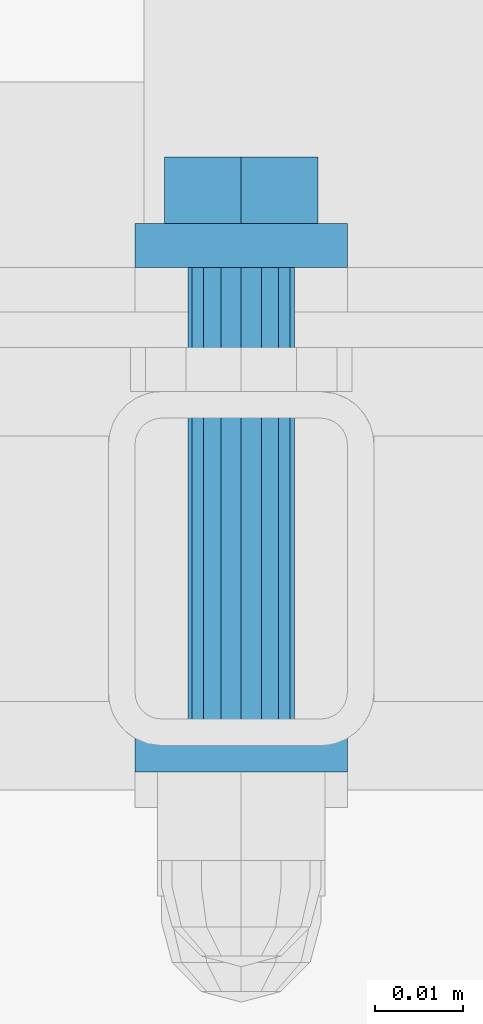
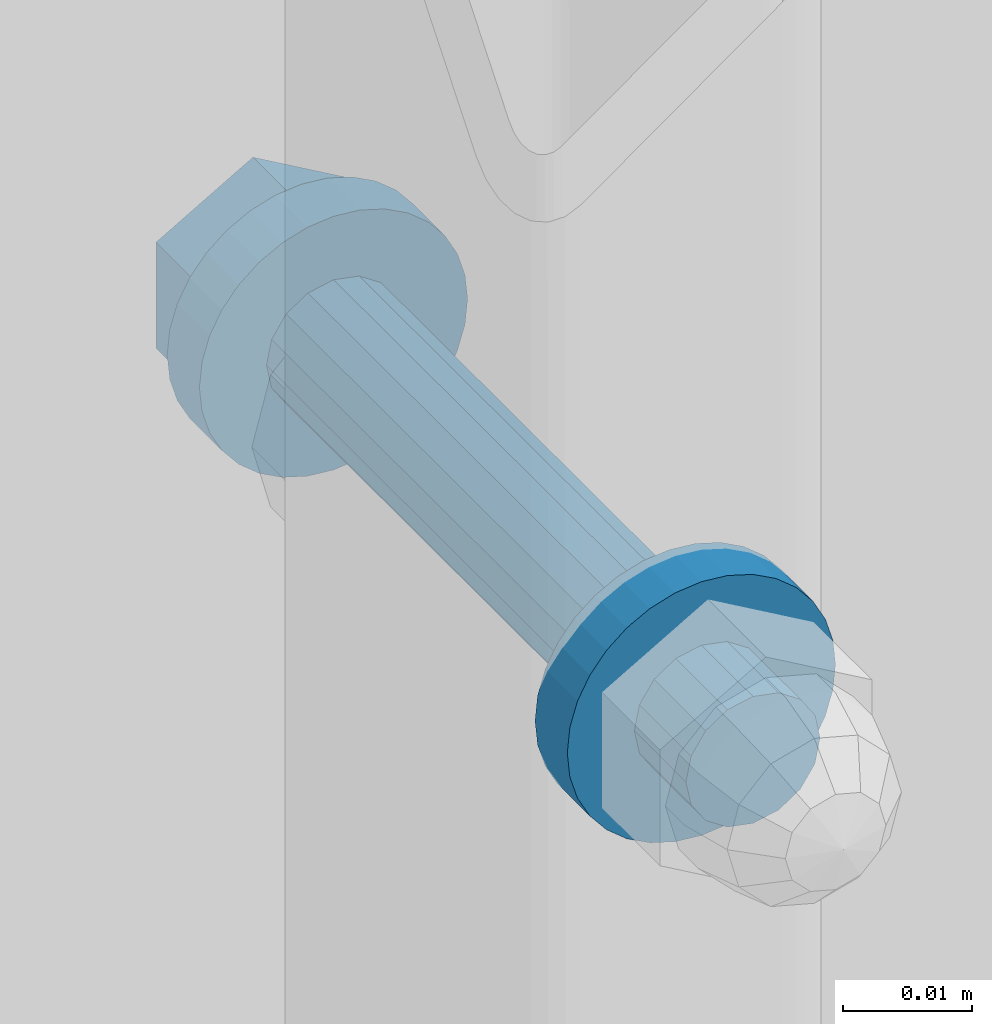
# One storey, part 72 of 116: 1 mechanical fastener.
"""IFC2X3 building model written with IfcOpenShell, lengths in millimetres."""

from ifc_helpers import new_model, entity, si_unit, converted_unit, origin_with_axes, place, context, project, spatial, faceted_brep, element, save


model = new_model("IFC2X3")

# Units and contexts
model_context = context("Model", 3, precision=1e-09, world=origin_with_axes())
ifc_project = project(units=[si_unit("LENGTHUNIT", "METRE", prefix="MILLI"), si_unit("AREAUNIT", "SQUARE_METRE"), si_unit("VOLUMEUNIT", "CUBIC_METRE"), converted_unit("PLANEANGLEUNIT", "DEGREE", entity("IfcPlaneAngleMeasure", 0.01745329), si_unit("PLANEANGLEUNIT", "RADIAN"), dimensions=[0, 0, 0, 0, 0, 0, 0])], contexts=[model_context])

# Site, building, storey
site_placement = place(None, origin_with_axes())
site = spatial("IfcSite", under=ifc_project, at=site_placement, Name="Site", CompositionType="ELEMENT")
building_placement = place(site_placement, origin_with_axes())
building = spatial("IfcBuilding", under=site, at=building_placement, Name="Struktur 1", CompositionType="ELEMENT")
storey_placement = place(building_placement, origin_with_axes())
storey = spatial("IfcBuildingStorey", under=building, at=storey_placement, Name="Default Storey", CompositionType="ELEMENT", Elevation=0.0)

# Mechanical fastener
mechanical_fastener_placement = place(None, origin_with_axes())
element("IfcMechanicalFastener", 1, at=mechanical_fastener_placement, inside=storey, ObjectType="-", NominalDiameter=12.0, NominalLength=70.0, context=model_context, shape_type="Brep", body=[
    faceted_brep([(59725.049134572, 9081.358883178, -843.0), (59725.049134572, 9083.858883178, -843.0), (59725.279711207, 9083.858883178, -845.341083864), (59725.279711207, 9081.358883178, -845.341083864), (59725.962580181, 9083.858883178, -847.592201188), (59725.962580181, 9081.358883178, -847.592201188), (59727.071499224, 9083.858883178, -849.666842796), (59727.071499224, 9081.358883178, -849.666842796), (59728.563853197, 9083.858883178, -851.485281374), (59728.563853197, 9081.358883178, -851.485281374), (59730.382291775, 9083.858883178, -852.977635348), (59730.382291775, 9081.358883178, -852.977635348), (59732.456933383, 9083.858883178, -854.08655439), (59732.456933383, 9081.358883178, -854.08655439), (59734.708050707, 9083.858883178, -854.769423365), (59734.708050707, 9081.358883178, -854.769423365), (59737.049134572, 9083.858883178, -855.0), (59737.049134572, 9081.358883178, -855.0), (59739.390218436, 9083.858883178, -854.769423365), (59739.390218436, 9081.358883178, -854.769423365), (59741.64133576, 9083.858883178, -854.08655439), (59741.64133576, 9081.358883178, -854.08655439), (59743.715977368, 9083.858883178, -852.977635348), (59743.715977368, 9081.358883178, -852.977635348), (59745.534415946, 9083.858883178, -851.485281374), (59745.534415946, 9081.358883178, -851.485281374), (59747.026769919, 9083.858883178, -849.666842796), (59747.026769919, 9081.358883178, -849.666842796), (59748.135688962, 9083.858883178, -847.592201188), (59748.135688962, 9081.358883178, -847.592201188), (59748.818557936, 9083.858883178, -845.341083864), (59748.818557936, 9081.358883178, -845.341083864), (59749.049134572, 9083.858883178, -843.0), (59749.049134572, 9081.358883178, -843.0), (59748.818557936, 9083.858883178, -840.658916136), (59748.818557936, 9081.358883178, -840.658916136), (59748.135688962, 9083.858883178, -838.407798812), (59748.135688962, 9081.358883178, -838.407798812), (59747.026769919, 9083.858883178, -836.333157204), (59747.026769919, 9081.358883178, -836.333157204), (59745.534415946, 9083.858883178, -834.514718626), (59745.534415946, 9081.358883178, -834.514718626), (59743.715977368, 9083.858883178, -833.022364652), (59743.715977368, 9081.358883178, -833.022364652), (59741.64133576, 9083.858883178, -831.91344561), (59741.64133576, 9081.358883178, -831.91344561), (59739.390218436, 9083.858883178, -831.230576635), (59739.390218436, 9081.358883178, -831.230576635), (59737.049134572, 9083.858883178, -831.0), (59737.049134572, 9081.358883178, -831.0), (59734.708050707, 9083.858883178, -831.230576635), (59734.708050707, 9081.358883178, -831.230576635), (59732.456933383, 9083.858883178, -831.91344561), (59732.456933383, 9081.358883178, -831.91344561), (59730.382291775, 9083.858883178, -833.022364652), (59730.382291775, 9081.358883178, -833.022364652), (59728.563853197, 9083.858883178, -834.514718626), (59728.563853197, 9081.358883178, -834.514718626), (59727.071499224, 9083.858883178, -836.333157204), (59727.071499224, 9081.358883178, -836.333157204), (59725.962580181, 9083.858883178, -838.407798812), (59725.962580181, 9081.358883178, -838.407798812), (59725.279711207, 9083.858883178, -840.658916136), (59725.279711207, 9081.358883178, -840.658916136)], [[[0, 1, 2, 3]], [[3, 2, 4, 5]], [[5, 4, 6, 7]], [[7, 6, 8, 9]], [[9, 8, 10, 11]], [[11, 10, 12, 13]], [[13, 12, 14, 15]], [[15, 14, 16, 17]], [[17, 16, 18, 19]], [[19, 18, 20, 21]], [[21, 20, 22, 23]], [[23, 22, 24, 25]], [[25, 24, 26, 27]], [[27, 26, 28, 29]], [[29, 28, 30, 31]], [[31, 30, 32, 33]], [[33, 32, 34, 35]], [[35, 34, 36, 37]], [[37, 36, 38, 39]], [[39, 38, 40, 41]], [[41, 40, 42, 43]], [[43, 42, 44, 45]], [[45, 44, 46, 47]], [[47, 46, 48, 49]], [[49, 48, 50, 51]], [[51, 50, 52, 53]], [[53, 52, 54, 55]], [[55, 54, 56, 57]], [[57, 56, 58, 59]], [[59, 58, 60, 61]], [[61, 60, 62, 63]], [[63, 62, 1, 0]], [[2, 1, 62, 60, 58, 56, 54, 52, 50, 48, 46, 44, 42, 40, 38, 36, 34, 32, 30, 28, 26, 24, 22, 20, 18, 16, 14, 12, 10, 8, 6, 4]], [[63, 0, 3, 5, 7, 9, 11, 13, 15, 17, 19, 21, 23, 25, 27, 29, 31, 33, 35, 37, 39, 41, 43, 45, 47, 49, 51, 53, 55, 57, 59, 61]]]),
    faceted_brep([(59725.049134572, 9083.858883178, -843.0), (59725.049134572, 9086.358883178, -843.0), (59725.279711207, 9086.358883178, -845.341083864), (59725.279711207, 9083.858883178, -845.341083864), (59725.962580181, 9086.358883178, -847.592201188), (59725.962580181, 9083.858883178, -847.592201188), (59727.071499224, 9086.358883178, -849.666842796), (59727.071499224, 9083.858883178, -849.666842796), (59728.563853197, 9086.358883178, -851.485281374), (59728.563853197, 9083.858883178, -851.485281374), (59730.382291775, 9086.358883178, -852.977635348), (59730.382291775, 9083.858883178, -852.977635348), (59732.456933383, 9086.358883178, -854.08655439), (59732.456933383, 9083.858883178, -854.08655439), (59734.708050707, 9086.358883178, -854.769423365), (59734.708050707, 9083.858883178, -854.769423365), (59737.049134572, 9086.358883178, -855.0), (59737.049134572, 9083.858883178, -855.0), (59739.390218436, 9086.358883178, -854.769423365), (59739.390218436, 9083.858883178, -854.769423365), (59741.64133576, 9086.358883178, -854.08655439), (59741.64133576, 9083.858883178, -854.08655439), (59743.715977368, 9086.358883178, -852.977635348), (59743.715977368, 9083.858883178, -852.977635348), (59745.534415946, 9086.358883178, -851.485281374), (59745.534415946, 9083.858883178, -851.485281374), (59747.026769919, 9086.358883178, -849.666842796), (59747.026769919, 9083.858883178, -849.666842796), (59748.135688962, 9086.358883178, -847.592201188), (59748.135688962, 9083.858883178, -847.592201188), (59748.818557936, 9086.358883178, -845.341083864), (59748.818557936, 9083.858883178, -845.341083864), (59749.049134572, 9086.358883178, -843.0), (59749.049134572, 9083.858883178, -843.0), (59748.818557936, 9086.358883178, -840.658916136), (59748.818557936, 9083.858883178, -840.658916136), (59748.135688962, 9086.358883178, -838.407798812), (59748.135688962, 9083.858883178, -838.407798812), (59747.026769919, 9086.358883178, -836.333157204), (59747.026769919, 9083.858883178, -836.333157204), (59745.534415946, 9086.358883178, -834.514718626), (59745.534415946, 9083.858883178, -834.514718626), (59743.715977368, 9086.358883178, -833.022364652), (59743.715977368, 9083.858883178, -833.022364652), (59741.64133576, 9086.358883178, -831.91344561), (59741.64133576, 9083.858883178, -831.91344561), (59739.390218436, 9086.358883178, -831.230576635), (59739.390218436, 9083.858883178, -831.230576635), (59737.049134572, 9086.358883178, -831.0), (59737.049134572, 9083.858883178, -831.0), (59734.708050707, 9086.358883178, -831.230576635), (59734.708050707, 9083.858883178, -831.230576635), (59732.456933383, 9086.358883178, -831.91344561), (59732.456933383, 9083.858883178, -831.91344561), (59730.382291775, 9086.358883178, -833.022364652), (59730.382291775, 9083.858883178, -833.022364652), (59728.563853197, 9086.358883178, -834.514718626), (59728.563853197, 9083.858883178, -834.514718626), (59727.071499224, 9086.358883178, -836.333157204), (59727.071499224, 9083.858883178, -836.333157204), (59725.962580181, 9086.358883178, -838.407798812), (59725.962580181, 9083.858883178, -838.407798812), (59725.279711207, 9086.358883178, -840.658916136), (59725.279711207, 9083.858883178, -840.658916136)], [[[0, 1, 2, 3]], [[3, 2, 4, 5]], [[5, 4, 6, 7]], [[7, 6, 8, 9]], [[9, 8, 10, 11]], [[11, 10, 12, 13]], [[13, 12, 14, 15]], [[15, 14, 16, 17]], [[17, 16, 18, 19]], [[19, 18, 20, 21]], [[21, 20, 22, 23]], [[23, 22, 24, 25]], [[25, 24, 26, 27]], [[27, 26, 28, 29]], [[29, 28, 30, 31]], [[31, 30, 32, 33]], [[33, 32, 34, 35]], [[35, 34, 36, 37]], [[37, 36, 38, 39]], [[39, 38, 40, 41]], [[41, 40, 42, 43]], [[43, 42, 44, 45]], [[45, 44, 46, 47]], [[47, 46, 48, 49]], [[49, 48, 50, 51]], [[51, 50, 52, 53]], [[53, 52, 54, 55]], [[55, 54, 56, 57]], [[57, 56, 58, 59]], [[59, 58, 60, 61]], [[61, 60, 62, 63]], [[63, 62, 1, 0]], [[2, 1, 62, 60, 58, 56, 54, 52, 50, 48, 46, 44, 42, 40, 38, 36, 34, 32, 30, 28, 26, 24, 22, 20, 18, 16, 14, 12, 10, 8, 6, 4]], [[63, 0, 3, 5, 7, 9, 11, 13, 15, 17, 19, 21, 23, 25, 27, 29, 31, 33, 35, 37, 39, 41, 43, 45, 47, 49, 51, 53, 55, 57, 59, 61]]]),
    faceted_brep([(59745.722378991, 9093.858883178, -848.0075), (59745.722378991, 9086.358883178, -848.0075), (59737.049134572, 9086.358883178, -853.015), (59737.049134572, 9093.858883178, -853.015), (59728.375890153, 9086.358883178, -848.0075), (59728.375890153, 9093.858883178, -848.0075), (59728.375890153, 9086.358883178, -837.9925), (59728.375890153, 9093.858883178, -837.9925), (59737.049134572, 9086.358883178, -832.985), (59737.049134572, 9093.858883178, -832.985), (59745.722378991, 9086.358883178, -837.9925), (59745.722378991, 9093.858883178, -837.9925)], [[[0, 1, 2, 3]], [[3, 2, 4, 5]], [[5, 4, 6, 7]], [[7, 6, 8, 9]], [[9, 8, 10, 11]], [[11, 10, 1, 0]], [[3, 5, 7, 9, 11, 0]], [[2, 1, 10, 8, 6, 4]]]),
    faceted_brep([(59731.049134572, 9029.359883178, -843.0), (59731.049134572, 9081.358883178, -843.0), (59731.505857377, 9081.358883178, -845.296100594), (59731.505857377, 9029.359883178, -845.296100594), (59732.806493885, 9081.358883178, -847.242640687), (59732.806493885, 9029.359883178, -847.242640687), (59734.753033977, 9081.358883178, -848.543277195), (59734.753033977, 9029.359883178, -848.543277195), (59737.049134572, 9081.358883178, -849.0), (59737.049134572, 9029.359883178, -849.0), (59739.345235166, 9081.358883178, -848.543277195), (59739.345235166, 9029.359883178, -848.543277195), (59741.291775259, 9081.358883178, -847.242640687), (59741.291775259, 9029.359883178, -847.242640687), (59742.592411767, 9081.358883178, -845.296100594), (59742.592411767, 9029.359883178, -845.296100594), (59743.049134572, 9081.358883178, -843.0), (59743.049134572, 9029.359883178, -843.0), (59742.592411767, 9081.358883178, -840.703899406), (59742.592411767, 9029.359883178, -840.703899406), (59741.291775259, 9081.358883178, -838.757359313), (59741.291775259, 9029.359883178, -838.757359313), (59739.345235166, 9081.358883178, -837.456722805), (59739.345235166, 9029.359883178, -837.456722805), (59737.049134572, 9081.358883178, -837.0), (59737.049134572, 9029.359883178, -837.0), (59734.753033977, 9081.358883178, -837.456722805), (59734.753033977, 9029.359883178, -837.456722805), (59732.806493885, 9081.358883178, -838.757359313), (59732.806493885, 9029.359883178, -838.757359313), (59731.505857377, 9081.358883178, -840.703899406), (59731.505857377, 9029.359883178, -840.703899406)], [[[0, 1, 2, 3]], [[3, 2, 4, 5]], [[5, 4, 6, 7]], [[7, 6, 8, 9]], [[9, 8, 10, 11]], [[11, 10, 12, 13]], [[13, 12, 14, 15]], [[15, 14, 16, 17]], [[17, 16, 18, 19]], [[19, 18, 20, 21]], [[21, 20, 22, 23]], [[23, 22, 24, 25]], [[25, 24, 26, 27]], [[27, 26, 28, 29]], [[29, 28, 30, 31]], [[31, 30, 1, 0]], [[2, 1, 30, 28, 26, 24, 22, 20, 18, 16, 14, 12, 10, 8, 6, 4]], [[31, 0, 3, 5, 7, 9, 11, 13, 15, 17, 19, 21, 23, 25, 27, 29]]]),
    faceted_brep([(59725.049134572, 9026.859883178, -843.0), (59725.049134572, 9029.359883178, -843.0), (59725.279711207, 9029.359883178, -845.341083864), (59725.279711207, 9026.859883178, -845.341083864), (59725.962580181, 9029.359883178, -847.592201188), (59725.962580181, 9026.859883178, -847.592201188), (59727.071499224, 9029.359883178, -849.666842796), (59727.071499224, 9026.859883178, -849.666842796), (59728.563853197, 9029.359883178, -851.485281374), (59728.563853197, 9026.859883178, -851.485281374), (59730.382291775, 9029.359883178, -852.977635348), (59730.382291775, 9026.859883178, -852.977635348), (59732.456933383, 9029.359883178, -854.08655439), (59732.456933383, 9026.859883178, -854.08655439), (59734.708050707, 9029.359883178, -854.769423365), (59734.708050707, 9026.859883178, -854.769423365), (59737.049134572, 9029.359883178, -855.0), (59737.049134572, 9026.859883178, -855.0), (59739.390218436, 9029.359883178, -854.769423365), (59739.390218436, 9026.859883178, -854.769423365), (59741.64133576, 9029.359883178, -854.08655439), (59741.64133576, 9026.859883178, -854.08655439), (59743.715977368, 9029.359883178, -852.977635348), (59743.715977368, 9026.859883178, -852.977635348), (59745.534415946, 9029.359883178, -851.485281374), (59745.534415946, 9026.859883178, -851.485281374), (59747.026769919, 9029.359883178, -849.666842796), (59747.026769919, 9026.859883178, -849.666842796), (59748.135688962, 9029.359883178, -847.592201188), (59748.135688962, 9026.859883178, -847.592201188), (59748.818557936, 9029.359883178, -845.341083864), (59748.818557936, 9026.859883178, -845.341083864), (59749.049134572, 9029.359883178, -843.0), (59749.049134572, 9026.859883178, -843.0), (59748.818557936, 9029.359883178, -840.658916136), (59748.818557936, 9026.859883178, -840.658916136), (59748.135688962, 9029.359883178, -838.407798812), (59748.135688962, 9026.859883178, -838.407798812), (59747.026769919, 9029.359883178, -836.333157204), (59747.026769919, 9026.859883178, -836.333157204), (59745.534415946, 9029.359883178, -834.514718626), (59745.534415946, 9026.859883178, -834.514718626), (59743.715977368, 9029.359883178, -833.022364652), (59743.715977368, 9026.859883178, -833.022364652), (59741.64133576, 9029.359883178, -831.91344561), (59741.64133576, 9026.859883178, -831.91344561), (59739.390218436, 9029.359883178, -831.230576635), (59739.390218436, 9026.859883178, -831.230576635), (59737.049134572, 9029.359883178, -831.0), (59737.049134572, 9026.859883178, -831.0), (59734.708050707, 9029.359883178, -831.230576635), (59734.708050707, 9026.859883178, -831.230576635), (59732.456933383, 9029.359883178, -831.91344561), (59732.456933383, 9026.859883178, -831.91344561), (59730.382291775, 9029.359883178, -833.022364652), (59730.382291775, 9026.859883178, -833.022364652), (59728.563853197, 9029.359883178, -834.514718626), (59728.563853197, 9026.859883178, -834.514718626), (59727.071499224, 9029.359883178, -836.333157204), (59727.071499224, 9026.859883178, -836.333157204), (59725.962580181, 9029.359883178, -838.407798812), (59725.962580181, 9026.859883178, -838.407798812), (59725.279711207, 9029.359883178, -840.658916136), (59725.279711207, 9026.859883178, -840.658916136)], [[[0, 1, 2, 3]], [[3, 2, 4, 5]], [[5, 4, 6, 7]], [[7, 6, 8, 9]], [[9, 8, 10, 11]], [[11, 10, 12, 13]], [[13, 12, 14, 15]], [[15, 14, 16, 17]], [[17, 16, 18, 19]], [[19, 18, 20, 21]], [[21, 20, 22, 23]], [[23, 22, 24, 25]], [[25, 24, 26, 27]], [[27, 26, 28, 29]], [[29, 28, 30, 31]], [[31, 30, 32, 33]], [[33, 32, 34, 35]], [[35, 34, 36, 37]], [[37, 36, 38, 39]], [[39, 38, 40, 41]], [[41, 40, 42, 43]], [[43, 42, 44, 45]], [[45, 44, 46, 47]], [[47, 46, 48, 49]], [[49, 48, 50, 51]], [[51, 50, 52, 53]], [[53, 52, 54, 55]], [[55, 54, 56, 57]], [[57, 56, 58, 59]], [[59, 58, 60, 61]], [[61, 60, 62, 63]], [[63, 62, 1, 0]], [[2, 1, 62, 60, 58, 56, 54, 52, 50, 48, 46, 44, 42, 40, 38, 36, 34, 32, 30, 28, 26, 24, 22, 20, 18, 16, 14, 12, 10, 8, 6, 4]], [[63, 0, 3, 5, 7, 9, 11, 13, 15, 17, 19, 21, 23, 25, 27, 29, 31, 33, 35, 37, 39, 41, 43, 45, 47, 49, 51, 53, 55, 57, 59, 61]]]),
    faceted_brep([(59725.049134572, 9024.359883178, -843.0), (59725.049134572, 9026.859883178, -843.0), (59725.279711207, 9026.859883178, -845.341083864), (59725.279711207, 9024.359883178, -845.341083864), (59725.962580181, 9026.859883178, -847.592201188), (59725.962580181, 9024.359883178, -847.592201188), (59727.071499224, 9026.859883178, -849.666842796), (59727.071499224, 9024.359883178, -849.666842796), (59728.563853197, 9026.859883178, -851.485281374), (59728.563853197, 9024.359883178, -851.485281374), (59730.382291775, 9026.859883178, -852.977635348), (59730.382291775, 9024.359883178, -852.977635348), (59732.456933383, 9026.859883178, -854.08655439), (59732.456933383, 9024.359883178, -854.08655439), (59734.708050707, 9026.859883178, -854.769423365), (59734.708050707, 9024.359883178, -854.769423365), (59737.049134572, 9026.859883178, -855.0), (59737.049134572, 9024.359883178, -855.0), (59739.390218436, 9026.859883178, -854.769423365), (59739.390218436, 9024.359883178, -854.769423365), (59741.64133576, 9026.859883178, -854.08655439), (59741.64133576, 9024.359883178, -854.08655439), (59743.715977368, 9026.859883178, -852.977635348), (59743.715977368, 9024.359883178, -852.977635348), (59745.534415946, 9026.859883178, -851.485281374), (59745.534415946, 9024.359883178, -851.485281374), (59747.026769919, 9026.859883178, -849.666842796), (59747.026769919, 9024.359883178, -849.666842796), (59748.135688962, 9026.859883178, -847.592201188), (59748.135688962, 9024.359883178, -847.592201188), (59748.818557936, 9026.859883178, -845.341083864), (59748.818557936, 9024.359883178, -845.341083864), (59749.049134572, 9026.859883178, -843.0), (59749.049134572, 9024.359883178, -843.0), (59748.818557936, 9026.859883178, -840.658916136), (59748.818557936, 9024.359883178, -840.658916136), (59748.135688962, 9026.859883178, -838.407798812), (59748.135688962, 9024.359883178, -838.407798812), (59747.026769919, 9026.859883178, -836.333157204), (59747.026769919, 9024.359883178, -836.333157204), (59745.534415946, 9026.859883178, -834.514718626), (59745.534415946, 9024.359883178, -834.514718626), (59743.715977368, 9026.859883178, -833.022364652), (59743.715977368, 9024.359883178, -833.022364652), (59741.64133576, 9026.859883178, -831.91344561), (59741.64133576, 9024.359883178, -831.91344561), (59739.390218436, 9026.859883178, -831.230576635), (59739.390218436, 9024.359883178, -831.230576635), (59737.049134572, 9026.859883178, -831.0), (59737.049134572, 9024.359883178, -831.0), (59734.708050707, 9026.859883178, -831.230576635), (59734.708050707, 9024.359883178, -831.230576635), (59732.456933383, 9026.859883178, -831.91344561), (59732.456933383, 9024.359883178, -831.91344561), (59730.382291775, 9026.859883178, -833.022364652), (59730.382291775, 9024.359883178, -833.022364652), (59728.563853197, 9026.859883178, -834.514718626), (59728.563853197, 9024.359883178, -834.514718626), (59727.071499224, 9026.859883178, -836.333157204), (59727.071499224, 9024.359883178, -836.333157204), (59725.962580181, 9026.859883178, -838.407798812), (59725.962580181, 9024.359883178, -838.407798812), (59725.279711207, 9026.859883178, -840.658916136), (59725.279711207, 9024.359883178, -840.658916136)], [[[0, 1, 2, 3]], [[3, 2, 4, 5]], [[5, 4, 6, 7]], [[7, 6, 8, 9]], [[9, 8, 10, 11]], [[11, 10, 12, 13]], [[13, 12, 14, 15]], [[15, 14, 16, 17]], [[17, 16, 18, 19]], [[19, 18, 20, 21]], [[21, 20, 22, 23]], [[23, 22, 24, 25]], [[25, 24, 26, 27]], [[27, 26, 28, 29]], [[29, 28, 30, 31]], [[31, 30, 32, 33]], [[33, 32, 34, 35]], [[35, 34, 36, 37]], [[37, 36, 38, 39]], [[39, 38, 40, 41]], [[41, 40, 42, 43]], [[43, 42, 44, 45]], [[45, 44, 46, 47]], [[47, 46, 48, 49]], [[49, 48, 50, 51]], [[51, 50, 52, 53]], [[53, 52, 54, 55]], [[55, 54, 56, 57]], [[57, 56, 58, 59]], [[59, 58, 60, 61]], [[61, 60, 62, 63]], [[63, 62, 1, 0]], [[2, 1, 62, 60, 58, 56, 54, 52, 50, 48, 46, 44, 42, 40, 38, 36, 34, 32, 30, 28, 26, 24, 22, 20, 18, 16, 14, 12, 10, 8, 6, 4]], [[63, 0, 3, 5, 7, 9, 11, 13, 15, 17, 19, 21, 23, 25, 27, 29, 31, 33, 35, 37, 39, 41, 43, 45, 47, 49, 51, 53, 55, 57, 59, 61]]]),
    faceted_brep([(59731.049134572, 9016.358883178, -843.0), (59731.049134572, 9024.359883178, -843.0), (59731.505857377, 9024.359883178, -845.296100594), (59731.505857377, 9016.358883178, -845.296100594), (59732.806493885, 9024.359883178, -847.242640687), (59732.806493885, 9016.358883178, -847.242640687), (59734.753033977, 9024.359883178, -848.543277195), (59734.753033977, 9016.358883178, -848.543277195), (59737.049134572, 9024.359883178, -849.0), (59737.049134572, 9016.358883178, -849.0), (59739.345235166, 9024.359883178, -848.543277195), (59739.345235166, 9016.358883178, -848.543277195), (59741.291775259, 9024.359883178, -847.242640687), (59741.291775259, 9016.358883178, -847.242640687), (59742.592411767, 9024.359883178, -845.296100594), (59742.592411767, 9016.358883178, -845.296100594), (59743.049134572, 9024.359883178, -843.0), (59743.049134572, 9016.358883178, -843.0), (59742.592411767, 9024.359883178, -840.703899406), (59742.592411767, 9016.358883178, -840.703899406), (59741.291775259, 9024.359883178, -838.757359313), (59741.291775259, 9016.358883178, -838.757359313), (59739.345235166, 9024.359883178, -837.456722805), (59739.345235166, 9016.358883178, -837.456722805), (59737.049134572, 9024.359883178, -837.0), (59737.049134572, 9016.358883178, -837.0), (59734.753033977, 9024.359883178, -837.456722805), (59734.753033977, 9016.358883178, -837.456722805), (59732.806493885, 9024.359883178, -838.757359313), (59732.806493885, 9016.358883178, -838.757359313), (59731.505857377, 9024.359883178, -840.703899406), (59731.505857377, 9016.358883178, -840.703899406)], [[[0, 1, 2, 3]], [[3, 2, 4, 5]], [[5, 4, 6, 7]], [[7, 6, 8, 9]], [[9, 8, 10, 11]], [[11, 10, 12, 13]], [[13, 12, 14, 15]], [[15, 14, 16, 17]], [[17, 16, 18, 19]], [[19, 18, 20, 21]], [[21, 20, 22, 23]], [[23, 22, 24, 25]], [[25, 24, 26, 27]], [[27, 26, 28, 29]], [[29, 28, 30, 31]], [[31, 30, 1, 0]], [[2, 1, 30, 28, 26, 24, 22, 20, 18, 16, 14, 12, 10, 8, 6, 4]], [[31, 0, 3, 5, 7, 9, 11, 13, 15, 17, 19, 21, 23, 25, 27, 29]]]),
])

save(model, "model.ifc")
